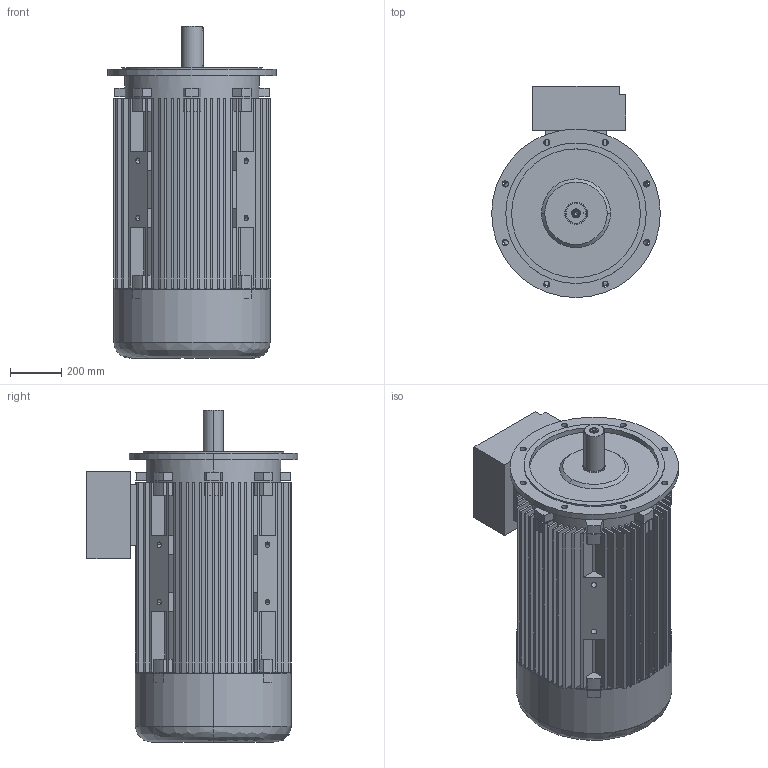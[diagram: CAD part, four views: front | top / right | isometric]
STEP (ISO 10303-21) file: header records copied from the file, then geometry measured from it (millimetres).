
FILE_DESCRIPTION (( 'STEP AP203' ), '1' );
FILE_NAME ('20.17514_B 7AT 315S&M - 4, -6,-8 B5 STANDK.STEP', '2018-04-12T06:08:53', ( '' ), ( '' ), 'SwSTEP 2.0', 'SolidWorks 2017', '' );
FILE_SCHEMA (( 'CONFIG_CONTROL_DESIGN' ));
Length unit declared in the file: millimetre
Products named in the file (1): 20.17514_B 7AT 315S&M - 4, -6,-8 B5 STANDK
Bounding box: 660 x 827 x 1300 mm (x, y, z)
Volume: 101032933.6 mm3; surface area: 11278454.1 mm2
Topology: 5 solids, 5 shells, 783 faces, 2095 edges, 1377 vertices
Faces by surface type: plane 610, cylinder 126, cone 34, bspline 13
Entity records: 25043 total; most frequent: CARTESIAN_POINT 5091, ORIENTED_EDGE 4154, DIRECTION 4079, EDGE_CURVE 2077, LINE 1549, VECTOR 1549, VERTEX_POINT 1377, AXIS2_PLACEMENT_3D 1265
